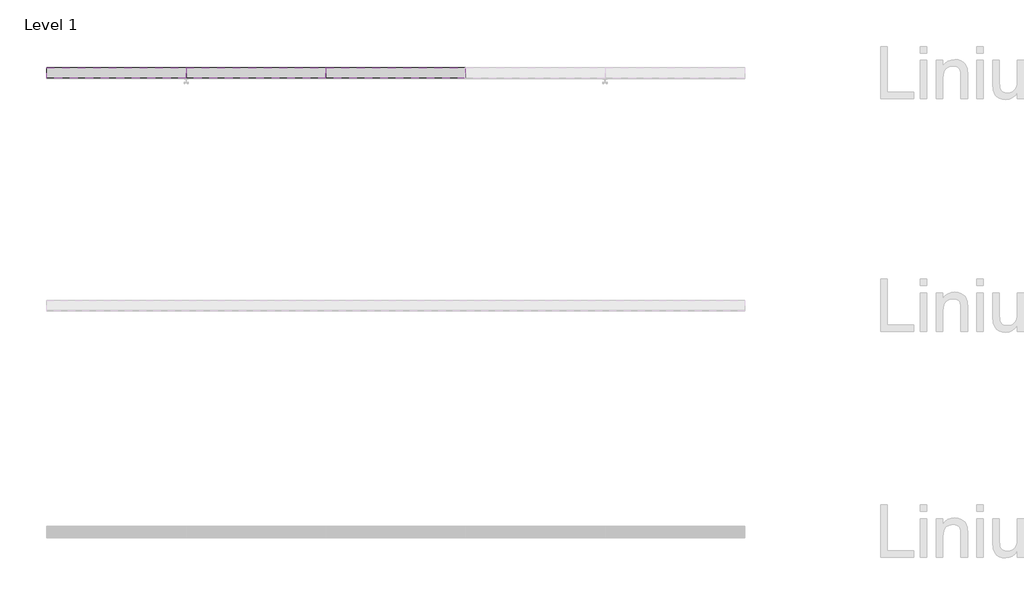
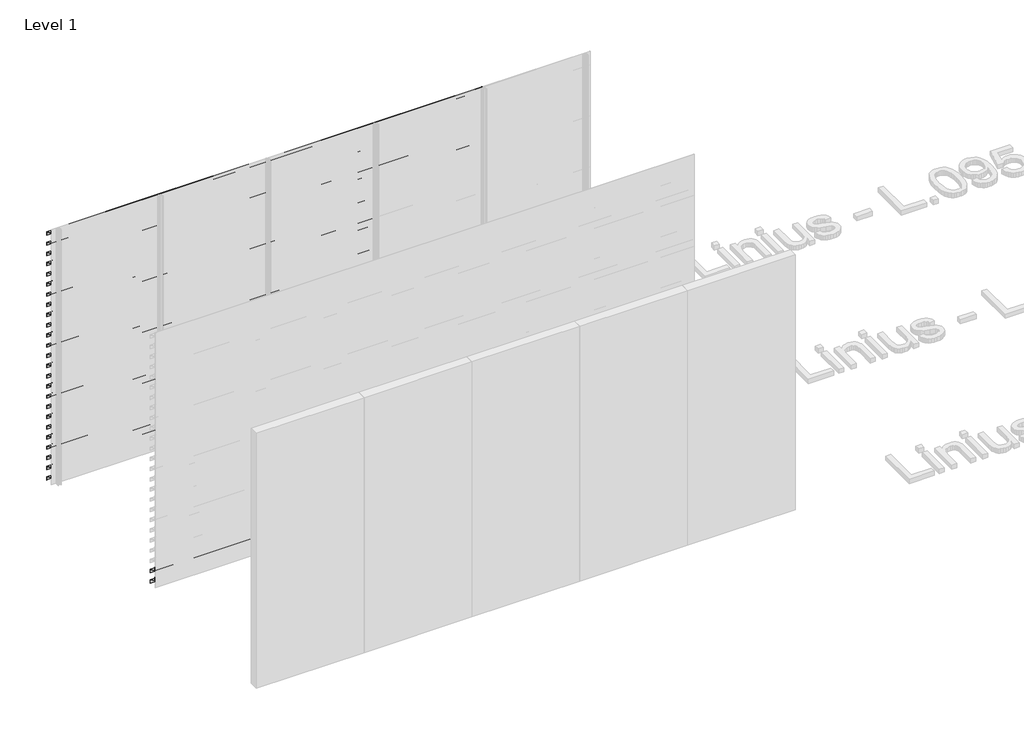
# One storey, part 14 of 46: 85 proxies.
"""IFC4 building model written with IfcOpenShell, lengths in millimetres."""

from ifc_helpers import new_model, si_unit, frame, origin, place, context, project, spatial, polyline, outline, extrude, element, save

model = new_model("IFC4")

# Units and contexts
model_context = context("Model", 3, world=origin())
ifc_project = project(units=[si_unit("LENGTHUNIT", "METRE", prefix="MILLI")], contexts=[model_context])

# Site, building, storey
site = spatial("IfcSite", under=ifc_project)
building = spatial("IfcBuilding", under=site)
storey = spatial("IfcBuildingStorey", under=building, Name="Level 1", Elevation=0.0)

# Proxies
placement = place(None, origin())
element("IfcBuildingElementProxy", 1, Name="Wall Sweeps", at=placement, inside=storey, context=model_context, shape_type="SweptSolid", body=[
    extrude(outline(polyline([(21573.0540136, 2920.0), (21573.0540136, 2880.0), (21571.0540136, 2881.349017), (21571.0540136, 2918.7258595), (21483.0540136, 2959.7609334), (21483.0540136, 3000.0), (21485.0540136, 3000.0), (21485.0540136, 2961.0350739), (21573.0540136, 2920.0)])), frame((466.6208097, 0.0, 0.0), z_axis=(1.0, 0.0, 0.0), x_axis=(0.0, 1.0, 0.0)), (0.0, 0.0, 1.0), 1200.0000002),
])
element("IfcBuildingElementProxy", 2, Name="Wall Sweeps", at=placement, inside=storey, context=model_context, shape_type="SweptSolid", body=[
    extrude(outline(polyline([(21573.0540136, 2800.0), (21573.0540136, 2760.0), (21571.0540136, 2761.349017), (21571.0540136, 2798.7258595), (21483.0540136, 2839.7609334), (21483.0540136, 2880.0), (21485.0540136, 2880.0), (21485.0540136, 2841.0350739), (21573.0540136, 2800.0)])), frame((466.6208097, 0.0, 0.0), z_axis=(1.0, 0.0, 0.0), x_axis=(0.0, 1.0, 0.0)), (0.0, 0.0, 1.0), 1200.0000002),
])
element("IfcBuildingElementProxy", 3, Name="Wall Sweeps", at=placement, inside=storey, context=model_context, shape_type="SweptSolid", body=[
    extrude(outline(polyline([(21573.0540136, 2680.0), (21573.0540136, 2640.0), (21571.0540136, 2641.349017), (21571.0540136, 2678.7258595), (21483.0540136, 2719.7609334), (21483.0540136, 2760.0), (21485.0540136, 2760.0), (21485.0540136, 2721.0350739), (21573.0540136, 2680.0)])), frame((466.6208097, 0.0, 0.0), z_axis=(1.0, 0.0, 0.0), x_axis=(0.0, 1.0, 0.0)), (0.0, 0.0, 1.0), 1200.0000002),
])
element("IfcBuildingElementProxy", 4, Name="Wall Sweeps", at=placement, inside=storey, context=model_context, shape_type="SweptSolid", body=[
    extrude(outline(polyline([(21573.0540136, 2560.0), (21573.0540136, 2520.0), (21571.0540136, 2521.349017), (21571.0540136, 2558.7258595), (21483.0540136, 2599.7609334), (21483.0540136, 2640.0), (21485.0540136, 2640.0), (21485.0540136, 2601.0350739), (21573.0540136, 2560.0)])), frame((466.6208097, 0.0, 0.0), z_axis=(1.0, 0.0, 0.0), x_axis=(0.0, 1.0, 0.0)), (0.0, 0.0, 1.0), 1200.0000002),
])
element("IfcBuildingElementProxy", 5, Name="Wall Sweeps", at=placement, inside=storey, context=model_context, shape_type="SweptSolid", body=[
    extrude(outline(polyline([(21573.0540136, 2440.0), (21573.0540136, 2400.0), (21571.0540136, 2401.349017), (21571.0540136, 2438.7258595), (21483.0540136, 2479.7609334), (21483.0540136, 2520.0), (21485.0540136, 2520.0), (21485.0540136, 2481.0350739), (21573.0540136, 2440.0)])), frame((466.6208097, 0.0, 0.0), z_axis=(1.0, 0.0, 0.0), x_axis=(0.0, 1.0, 0.0)), (0.0, 0.0, 1.0), 1200.0000002),
])
element("IfcBuildingElementProxy", 6, Name="Wall Sweeps", at=placement, inside=storey, context=model_context, shape_type="SweptSolid", body=[
    extrude(outline(polyline([(21573.0540136, 2320.0), (21573.0540136, 2280.0), (21571.0540136, 2281.349017), (21571.0540136, 2318.7258595), (21483.0540136, 2359.7609334), (21483.0540136, 2400.0), (21485.0540136, 2400.0), (21485.0540136, 2361.0350739), (21573.0540136, 2320.0)])), frame((466.6208097, 0.0, 0.0), z_axis=(1.0, 0.0, 0.0), x_axis=(0.0, 1.0, 0.0)), (0.0, 0.0, 1.0), 1200.0000002),
])
element("IfcBuildingElementProxy", 7, Name="Wall Sweeps", at=placement, inside=storey, context=model_context, shape_type="SweptSolid", body=[
    extrude(outline(polyline([(21573.0540136, 2200.0), (21573.0540136, 2160.0), (21571.0540136, 2161.349017), (21571.0540136, 2198.7258595), (21483.0540136, 2239.7609334), (21483.0540136, 2280.0), (21485.0540136, 2280.0), (21485.0540136, 2241.0350739), (21573.0540136, 2200.0)])), frame((466.6208097, 0.0, 0.0), z_axis=(1.0, 0.0, 0.0), x_axis=(0.0, 1.0, 0.0)), (0.0, 0.0, 1.0), 1200.0000002),
])
element("IfcBuildingElementProxy", 8, Name="Wall Sweeps", at=placement, inside=storey, context=model_context, shape_type="SweptSolid", body=[
    extrude(outline(polyline([(21573.0540136, 2080.0), (21573.0540136, 2040.0), (21571.0540136, 2041.349017), (21571.0540136, 2078.7258595), (21483.0540136, 2119.7609334), (21483.0540136, 2160.0), (21485.0540136, 2160.0), (21485.0540136, 2121.0350739), (21573.0540136, 2080.0)])), frame((466.6208097, 0.0, 0.0), z_axis=(1.0, 0.0, 0.0), x_axis=(0.0, 1.0, 0.0)), (0.0, 0.0, 1.0), 1200.0000002),
])
element("IfcBuildingElementProxy", 9, Name="Wall Sweeps", at=placement, inside=storey, context=model_context, shape_type="SweptSolid", body=[
    extrude(outline(polyline([(21573.0540136, 1960.0), (21573.0540136, 1920.0), (21571.0540136, 1921.349017), (21571.0540136, 1958.7258595), (21483.0540136, 1999.7609334), (21483.0540136, 2040.0), (21485.0540136, 2040.0), (21485.0540136, 2001.0350739), (21573.0540136, 1960.0)])), frame((466.6208097, 0.0, 0.0), z_axis=(1.0, 0.0, 0.0), x_axis=(0.0, 1.0, 0.0)), (0.0, 0.0, 1.0), 1200.0000002),
])
element("IfcBuildingElementProxy", 10, Name="Wall Sweeps", at=placement, inside=storey, context=model_context, shape_type="SweptSolid", body=[
    extrude(outline(polyline([(21573.0540136, 1840.0), (21573.0540136, 1800.0), (21571.0540136, 1801.349017), (21571.0540136, 1838.7258595), (21483.0540136, 1879.7609334), (21483.0540136, 1920.0), (21485.0540136, 1920.0), (21485.0540136, 1881.0350739), (21573.0540136, 1840.0)])), frame((466.6208097, 0.0, 0.0), z_axis=(1.0, 0.0, 0.0), x_axis=(0.0, 1.0, 0.0)), (0.0, 0.0, 1.0), 1200.0000002),
])
element("IfcBuildingElementProxy", 11, Name="Wall Sweeps", at=placement, inside=storey, context=model_context, shape_type="SweptSolid", body=[
    extrude(outline(polyline([(21573.0540136, 1720.0), (21573.0540136, 1680.0), (21571.0540136, 1681.349017), (21571.0540136, 1718.7258595), (21483.0540136, 1759.7609334), (21483.0540136, 1800.0), (21485.0540136, 1800.0), (21485.0540136, 1761.0350739), (21573.0540136, 1720.0)])), frame((466.6208097, 0.0, 0.0), z_axis=(1.0, 0.0, 0.0), x_axis=(0.0, 1.0, 0.0)), (0.0, 0.0, 1.0), 1200.0000002),
])
element("IfcBuildingElementProxy", 12, Name="Wall Sweeps", at=placement, inside=storey, context=model_context, shape_type="SweptSolid", body=[
    extrude(outline(polyline([(21573.0540136, 1600.0), (21573.0540136, 1560.0), (21571.0540136, 1561.349017), (21571.0540136, 1598.7258595), (21483.0540136, 1639.7609334), (21483.0540136, 1680.0), (21485.0540136, 1680.0), (21485.0540136, 1641.0350739), (21573.0540136, 1600.0)])), frame((466.6208097, 0.0, 0.0), z_axis=(1.0, 0.0, 0.0), x_axis=(0.0, 1.0, 0.0)), (0.0, 0.0, 1.0), 1200.0000002),
])
element("IfcBuildingElementProxy", 13, Name="Wall Sweeps", at=placement, inside=storey, context=model_context, shape_type="SweptSolid", body=[
    extrude(outline(polyline([(21573.0540136, 1480.0), (21573.0540136, 1440.0), (21571.0540136, 1441.349017), (21571.0540136, 1478.7258595), (21483.0540136, 1519.7609334), (21483.0540136, 1560.0), (21485.0540136, 1560.0), (21485.0540136, 1521.0350739), (21573.0540136, 1480.0)])), frame((466.6208097, 0.0, 0.0), z_axis=(1.0, 0.0, 0.0), x_axis=(0.0, 1.0, 0.0)), (0.0, 0.0, 1.0), 1200.0000002),
])
element("IfcBuildingElementProxy", 14, Name="Wall Sweeps", at=placement, inside=storey, context=model_context, shape_type="SweptSolid", body=[
    extrude(outline(polyline([(21573.0540136, 1360.0), (21573.0540136, 1320.0), (21571.0540136, 1321.349017), (21571.0540136, 1358.7258595), (21483.0540136, 1399.7609334), (21483.0540136, 1440.0), (21485.0540136, 1440.0), (21485.0540136, 1401.0350739), (21573.0540136, 1360.0)])), frame((466.6208097, 0.0, 0.0), z_axis=(1.0, 0.0, 0.0), x_axis=(0.0, 1.0, 0.0)), (0.0, 0.0, 1.0), 1200.0000002),
])
element("IfcBuildingElementProxy", 15, Name="Wall Sweeps", at=placement, inside=storey, context=model_context, shape_type="SweptSolid", body=[
    extrude(outline(polyline([(21573.0540136, 1240.0), (21573.0540136, 1200.0), (21571.0540136, 1201.349017), (21571.0540136, 1238.7258595), (21483.0540136, 1279.7609334), (21483.0540136, 1320.0), (21485.0540136, 1320.0), (21485.0540136, 1281.0350739), (21573.0540136, 1240.0)])), frame((466.6208097, 0.0, 0.0), z_axis=(1.0, 0.0, 0.0), x_axis=(0.0, 1.0, 0.0)), (0.0, 0.0, 1.0), 1200.0000002),
])
element("IfcBuildingElementProxy", 16, Name="Wall Sweeps", at=placement, inside=storey, context=model_context, shape_type="SweptSolid", body=[
    extrude(outline(polyline([(21573.0540136, 1120.0), (21573.0540136, 1080.0), (21571.0540136, 1081.349017), (21571.0540136, 1118.7258595), (21483.0540136, 1159.7609334), (21483.0540136, 1200.0), (21485.0540136, 1200.0), (21485.0540136, 1161.0350739), (21573.0540136, 1120.0)])), frame((466.6208097, 0.0, 0.0), z_axis=(1.0, 0.0, 0.0), x_axis=(0.0, 1.0, 0.0)), (0.0, 0.0, 1.0), 1200.0000002),
])
element("IfcBuildingElementProxy", 17, Name="Wall Sweeps", at=placement, inside=storey, context=model_context, shape_type="SweptSolid", body=[
    extrude(outline(polyline([(21573.0540136, 1000.0), (21573.0540136, 960.0), (21571.0540136, 961.349017), (21571.0540136, 998.7258595), (21483.0540136, 1039.7609334), (21483.0540136, 1080.0), (21485.0540136, 1080.0), (21485.0540136, 1041.0350739), (21573.0540136, 1000.0)])), frame((466.6208097, 0.0, 0.0), z_axis=(1.0, 0.0, 0.0), x_axis=(0.0, 1.0, 0.0)), (0.0, 0.0, 1.0), 1200.0000002),
])
element("IfcBuildingElementProxy", 18, Name="Wall Sweeps", at=placement, inside=storey, context=model_context, shape_type="SweptSolid", body=[
    extrude(outline(polyline([(21573.0540136, 880.0), (21573.0540136, 840.0), (21571.0540136, 841.349017), (21571.0540136, 878.7258595), (21483.0540136, 919.7609334), (21483.0540136, 960.0), (21485.0540136, 960.0), (21485.0540136, 921.0350739), (21573.0540136, 880.0)])), frame((466.6208097, 0.0, 0.0), z_axis=(1.0, 0.0, 0.0), x_axis=(0.0, 1.0, 0.0)), (0.0, 0.0, 1.0), 1200.0000002),
])
element("IfcBuildingElementProxy", 19, Name="Wall Sweeps", at=placement, inside=storey, context=model_context, shape_type="SweptSolid", body=[
    extrude(outline(polyline([(21573.0540136, 760.0), (21573.0540136, 720.0), (21571.0540136, 721.349017), (21571.0540136, 758.7258595), (21483.0540136, 799.7609334), (21483.0540136, 840.0), (21485.0540136, 840.0), (21485.0540136, 801.0350739), (21573.0540136, 760.0)])), frame((466.6208097, 0.0, 0.0), z_axis=(1.0, 0.0, 0.0), x_axis=(0.0, 1.0, 0.0)), (0.0, 0.0, 1.0), 1200.0000002),
])
element("IfcBuildingElementProxy", 20, Name="Wall Sweeps", at=placement, inside=storey, context=model_context, shape_type="SweptSolid", body=[
    extrude(outline(polyline([(21573.0540136, 640.0), (21573.0540136, 600.0), (21571.0540136, 601.349017), (21571.0540136, 638.7258595), (21483.0540136, 679.7609334), (21483.0540136, 720.0), (21485.0540136, 720.0), (21485.0540136, 681.0350739), (21573.0540136, 640.0)])), frame((466.6208097, 0.0, 0.0), z_axis=(1.0, 0.0, 0.0), x_axis=(0.0, 1.0, 0.0)), (0.0, 0.0, 1.0), 1200.0000002),
])
element("IfcBuildingElementProxy", 21, Name="Wall Sweeps", at=placement, inside=storey, context=model_context, shape_type="SweptSolid", body=[
    extrude(outline(polyline([(21573.0540136, 520.0), (21573.0540136, 480.0), (21571.0540136, 481.349017), (21571.0540136, 518.7258595), (21483.0540136, 559.7609334), (21483.0540136, 600.0), (21485.0540136, 600.0), (21485.0540136, 561.0350739), (21573.0540136, 520.0)])), frame((466.6208097, 0.0, 0.0), z_axis=(1.0, 0.0, 0.0), x_axis=(0.0, 1.0, 0.0)), (0.0, 0.0, 1.0), 1200.0000002),
])
element("IfcBuildingElementProxy", 22, Name="Wall Sweeps", at=placement, inside=storey, context=model_context, shape_type="SweptSolid", body=[
    extrude(outline(polyline([(21573.0540136, 400.0), (21573.0540136, 360.0), (21571.0540136, 361.349017), (21571.0540136, 398.7258595), (21483.0540136, 439.7609334), (21483.0540136, 480.0), (21485.0540136, 480.0), (21485.0540136, 441.0350739), (21573.0540136, 400.0)])), frame((466.6208097, 0.0, 0.0), z_axis=(1.0, 0.0, 0.0), x_axis=(0.0, 1.0, 0.0)), (0.0, 0.0, 1.0), 1200.0000002),
])
element("IfcBuildingElementProxy", 23, Name="Wall Sweeps", at=placement, inside=storey, context=model_context, shape_type="SweptSolid", body=[
    extrude(outline(polyline([(21573.0540136, 280.0), (21573.0540136, 240.0), (21571.0540136, 241.349017), (21571.0540136, 278.7258595), (21483.0540136, 319.7609334), (21483.0540136, 360.0), (21485.0540136, 360.0), (21485.0540136, 321.0350739), (21573.0540136, 280.0)])), frame((466.6208097, 0.0, 0.0), z_axis=(1.0, 0.0, 0.0), x_axis=(0.0, 1.0, 0.0)), (0.0, 0.0, 1.0), 1200.0000002),
])
element("IfcBuildingElementProxy", 24, Name="Wall Sweeps", at=placement, inside=storey, context=model_context, shape_type="SweptSolid", body=[
    extrude(outline(polyline([(21573.0540136, 160.0), (21573.0540136, 120.0), (21571.0540136, 121.349017), (21571.0540136, 158.7258595), (21483.0540136, 199.7609334), (21483.0540136, 240.0), (21485.0540136, 240.0), (21485.0540136, 201.0350739), (21573.0540136, 160.0)])), frame((466.6208097, 0.0, 0.0), z_axis=(1.0, 0.0, 0.0), x_axis=(0.0, 1.0, 0.0)), (0.0, 0.0, 1.0), 1200.0000002),
])
element("IfcBuildingElementProxy", 25, Name="Wall Sweeps", at=placement, inside=storey, context=model_context, shape_type="SweptSolid", body=[
    extrude(outline(polyline([(21573.0540136, 40.0), (21573.0540136, 0.0), (21571.0540136, 1.349017), (21571.0540136, 38.7258595), (21483.0540136, 79.7609334), (21483.0540136, 120.0), (21485.0540136, 120.0), (21485.0540136, 81.0350739), (21573.0540136, 40.0)])), frame((466.6208097, 0.0, 0.0), z_axis=(1.0, 0.0, 0.0), x_axis=(0.0, 1.0, 0.0)), (0.0, 0.0, 1.0), 1200.0000002),
])
element("IfcBuildingElementProxy", 26, Name="Wall Sweeps", at=placement, inside=storey, context=model_context, shape_type="SweptSolid", body=[
    extrude(outline(polyline([(21573.0540136, 2920.0), (21573.0540136, 2880.0), (21571.0540136, 2881.349017), (21571.0540136, 2918.7258595), (21483.0540136, 2959.7609334), (21483.0540136, 3000.0), (21485.0540136, 3000.0), (21485.0540136, 2961.0350739), (21573.0540136, 2920.0)])), frame((1666.6208099, 0.0, 0.0), z_axis=(1.0, 0.0, 0.0), x_axis=(0.0, 1.0, 0.0)), (0.0, 0.0, 1.0), 1199.9999999),
])
element("IfcBuildingElementProxy", 27, Name="Wall Sweeps", at=placement, inside=storey, context=model_context, shape_type="SweptSolid", body=[
    extrude(outline(polyline([(21573.0540136, 2800.0), (21573.0540136, 2760.0), (21571.0540136, 2761.349017), (21571.0540136, 2798.7258595), (21483.0540136, 2839.7609334), (21483.0540136, 2880.0), (21485.0540136, 2880.0), (21485.0540136, 2841.0350739), (21573.0540136, 2800.0)])), frame((1666.6208099, 0.0, 0.0), z_axis=(1.0, 0.0, 0.0), x_axis=(0.0, 1.0, 0.0)), (0.0, 0.0, 1.0), 1199.9999999),
])
element("IfcBuildingElementProxy", 28, Name="Wall Sweeps", at=placement, inside=storey, context=model_context, shape_type="SweptSolid", body=[
    extrude(outline(polyline([(21573.0540136, 2680.0), (21573.0540136, 2640.0), (21571.0540136, 2641.349017), (21571.0540136, 2678.7258595), (21483.0540136, 2719.7609334), (21483.0540136, 2760.0), (21485.0540136, 2760.0), (21485.0540136, 2721.0350739), (21573.0540136, 2680.0)])), frame((1666.6208099, 0.0, 0.0), z_axis=(1.0, 0.0, 0.0), x_axis=(0.0, 1.0, 0.0)), (0.0, 0.0, 1.0), 1199.9999999),
])
element("IfcBuildingElementProxy", 29, Name="Wall Sweeps", at=placement, inside=storey, context=model_context, shape_type="SweptSolid", body=[
    extrude(outline(polyline([(21573.0540136, 2560.0), (21573.0540136, 2520.0), (21571.0540136, 2521.349017), (21571.0540136, 2558.7258595), (21483.0540136, 2599.7609334), (21483.0540136, 2640.0), (21485.0540136, 2640.0), (21485.0540136, 2601.0350739), (21573.0540136, 2560.0)])), frame((1666.6208099, 0.0, 0.0), z_axis=(1.0, 0.0, 0.0), x_axis=(0.0, 1.0, 0.0)), (0.0, 0.0, 1.0), 1199.9999999),
])
element("IfcBuildingElementProxy", 30, Name="Wall Sweeps", at=placement, inside=storey, context=model_context, shape_type="SweptSolid", body=[
    extrude(outline(polyline([(21573.0540136, 2440.0), (21573.0540136, 2400.0), (21571.0540136, 2401.349017), (21571.0540136, 2438.7258595), (21483.0540136, 2479.7609334), (21483.0540136, 2520.0), (21485.0540136, 2520.0), (21485.0540136, 2481.0350739), (21573.0540136, 2440.0)])), frame((1666.6208099, 0.0, 0.0), z_axis=(1.0, 0.0, 0.0), x_axis=(0.0, 1.0, 0.0)), (0.0, 0.0, 1.0), 1199.9999999),
])
element("IfcBuildingElementProxy", 31, Name="Wall Sweeps", at=placement, inside=storey, context=model_context, shape_type="SweptSolid", body=[
    extrude(outline(polyline([(21573.0540136, 2320.0), (21573.0540136, 2280.0), (21571.0540136, 2281.349017), (21571.0540136, 2318.7258595), (21483.0540136, 2359.7609334), (21483.0540136, 2400.0), (21485.0540136, 2400.0), (21485.0540136, 2361.0350739), (21573.0540136, 2320.0)])), frame((1666.6208099, 0.0, 0.0), z_axis=(1.0, 0.0, 0.0), x_axis=(0.0, 1.0, 0.0)), (0.0, 0.0, 1.0), 1199.9999999),
])
element("IfcBuildingElementProxy", 32, Name="Wall Sweeps", at=placement, inside=storey, context=model_context, shape_type="SweptSolid", body=[
    extrude(outline(polyline([(21573.0540136, 2200.0), (21573.0540136, 2160.0), (21571.0540136, 2161.349017), (21571.0540136, 2198.7258595), (21483.0540136, 2239.7609334), (21483.0540136, 2280.0), (21485.0540136, 2280.0), (21485.0540136, 2241.0350739), (21573.0540136, 2200.0)])), frame((1666.6208099, 0.0, 0.0), z_axis=(1.0, 0.0, 0.0), x_axis=(0.0, 1.0, 0.0)), (0.0, 0.0, 1.0), 1199.9999999),
])
element("IfcBuildingElementProxy", 33, Name="Wall Sweeps", at=placement, inside=storey, context=model_context, shape_type="SweptSolid", body=[
    extrude(outline(polyline([(21573.0540136, 2080.0), (21573.0540136, 2040.0), (21571.0540136, 2041.349017), (21571.0540136, 2078.7258595), (21483.0540136, 2119.7609334), (21483.0540136, 2160.0), (21485.0540136, 2160.0), (21485.0540136, 2121.0350739), (21573.0540136, 2080.0)])), frame((1666.6208099, 0.0, 0.0), z_axis=(1.0, 0.0, 0.0), x_axis=(0.0, 1.0, 0.0)), (0.0, 0.0, 1.0), 1199.9999999),
])
element("IfcBuildingElementProxy", 34, Name="Wall Sweeps", at=placement, inside=storey, context=model_context, shape_type="SweptSolid", body=[
    extrude(outline(polyline([(21573.0540136, 1960.0), (21573.0540136, 1920.0), (21571.0540136, 1921.349017), (21571.0540136, 1958.7258595), (21483.0540136, 1999.7609334), (21483.0540136, 2040.0), (21485.0540136, 2040.0), (21485.0540136, 2001.0350739), (21573.0540136, 1960.0)])), frame((1666.6208099, 0.0, 0.0), z_axis=(1.0, 0.0, 0.0), x_axis=(0.0, 1.0, 0.0)), (0.0, 0.0, 1.0), 1199.9999999),
])
element("IfcBuildingElementProxy", 35, Name="Wall Sweeps", at=placement, inside=storey, context=model_context, shape_type="SweptSolid", body=[
    extrude(outline(polyline([(21573.0540136, 1840.0), (21573.0540136, 1800.0), (21571.0540136, 1801.349017), (21571.0540136, 1838.7258595), (21483.0540136, 1879.7609334), (21483.0540136, 1920.0), (21485.0540136, 1920.0), (21485.0540136, 1881.0350739), (21573.0540136, 1840.0)])), frame((1666.6208099, 0.0, 0.0), z_axis=(1.0, 0.0, 0.0), x_axis=(0.0, 1.0, 0.0)), (0.0, 0.0, 1.0), 1199.9999999),
])
element("IfcBuildingElementProxy", 36, Name="Wall Sweeps", at=placement, inside=storey, context=model_context, shape_type="SweptSolid", body=[
    extrude(outline(polyline([(21573.0540136, 1720.0), (21573.0540136, 1680.0), (21571.0540136, 1681.349017), (21571.0540136, 1718.7258595), (21483.0540136, 1759.7609334), (21483.0540136, 1800.0), (21485.0540136, 1800.0), (21485.0540136, 1761.0350739), (21573.0540136, 1720.0)])), frame((1666.6208099, 0.0, 0.0), z_axis=(1.0, 0.0, 0.0), x_axis=(0.0, 1.0, 0.0)), (0.0, 0.0, 1.0), 1199.9999999),
])
element("IfcBuildingElementProxy", 37, Name="Wall Sweeps", at=placement, inside=storey, context=model_context, shape_type="SweptSolid", body=[
    extrude(outline(polyline([(21573.0540136, 1600.0), (21573.0540136, 1560.0), (21571.0540136, 1561.349017), (21571.0540136, 1598.7258595), (21483.0540136, 1639.7609334), (21483.0540136, 1680.0), (21485.0540136, 1680.0), (21485.0540136, 1641.0350739), (21573.0540136, 1600.0)])), frame((1666.6208099, 0.0, 0.0), z_axis=(1.0, 0.0, 0.0), x_axis=(0.0, 1.0, 0.0)), (0.0, 0.0, 1.0), 1199.9999999),
])
element("IfcBuildingElementProxy", 38, Name="Wall Sweeps", at=placement, inside=storey, context=model_context, shape_type="SweptSolid", body=[
    extrude(outline(polyline([(21573.0540136, 1480.0), (21573.0540136, 1440.0), (21571.0540136, 1441.349017), (21571.0540136, 1478.7258595), (21483.0540136, 1519.7609334), (21483.0540136, 1560.0), (21485.0540136, 1560.0), (21485.0540136, 1521.0350739), (21573.0540136, 1480.0)])), frame((1666.6208099, 0.0, 0.0), z_axis=(1.0, 0.0, 0.0), x_axis=(0.0, 1.0, 0.0)), (0.0, 0.0, 1.0), 1199.9999999),
])
element("IfcBuildingElementProxy", 39, Name="Wall Sweeps", at=placement, inside=storey, context=model_context, shape_type="SweptSolid", body=[
    extrude(outline(polyline([(21573.0540136, 1360.0), (21573.0540136, 1320.0), (21571.0540136, 1321.349017), (21571.0540136, 1358.7258595), (21483.0540136, 1399.7609334), (21483.0540136, 1440.0), (21485.0540136, 1440.0), (21485.0540136, 1401.0350739), (21573.0540136, 1360.0)])), frame((1666.6208099, 0.0, 0.0), z_axis=(1.0, 0.0, 0.0), x_axis=(0.0, 1.0, 0.0)), (0.0, 0.0, 1.0), 1199.9999999),
])
element("IfcBuildingElementProxy", 40, Name="Wall Sweeps", at=placement, inside=storey, context=model_context, shape_type="SweptSolid", body=[
    extrude(outline(polyline([(21573.0540136, 1240.0), (21573.0540136, 1200.0), (21571.0540136, 1201.349017), (21571.0540136, 1238.7258595), (21483.0540136, 1279.7609334), (21483.0540136, 1320.0), (21485.0540136, 1320.0), (21485.0540136, 1281.0350739), (21573.0540136, 1240.0)])), frame((1666.6208099, 0.0, 0.0), z_axis=(1.0, 0.0, 0.0), x_axis=(0.0, 1.0, 0.0)), (0.0, 0.0, 1.0), 1199.9999999),
])
element("IfcBuildingElementProxy", 41, Name="Wall Sweeps", at=placement, inside=storey, context=model_context, shape_type="SweptSolid", body=[
    extrude(outline(polyline([(21573.0540136, 1120.0), (21573.0540136, 1080.0), (21571.0540136, 1081.349017), (21571.0540136, 1118.7258595), (21483.0540136, 1159.7609334), (21483.0540136, 1200.0), (21485.0540136, 1200.0), (21485.0540136, 1161.0350739), (21573.0540136, 1120.0)])), frame((1666.6208099, 0.0, 0.0), z_axis=(1.0, 0.0, 0.0), x_axis=(0.0, 1.0, 0.0)), (0.0, 0.0, 1.0), 1199.9999999),
])
element("IfcBuildingElementProxy", 42, Name="Wall Sweeps", at=placement, inside=storey, context=model_context, shape_type="SweptSolid", body=[
    extrude(outline(polyline([(21573.0540136, 1000.0), (21573.0540136, 960.0), (21571.0540136, 961.349017), (21571.0540136, 998.7258595), (21483.0540136, 1039.7609334), (21483.0540136, 1080.0), (21485.0540136, 1080.0), (21485.0540136, 1041.0350739), (21573.0540136, 1000.0)])), frame((1666.6208099, 0.0, 0.0), z_axis=(1.0, 0.0, 0.0), x_axis=(0.0, 1.0, 0.0)), (0.0, 0.0, 1.0), 1199.9999999),
])
element("IfcBuildingElementProxy", 43, Name="Wall Sweeps", at=placement, inside=storey, context=model_context, shape_type="SweptSolid", body=[
    extrude(outline(polyline([(21573.0540136, 880.0), (21573.0540136, 840.0), (21571.0540136, 841.349017), (21571.0540136, 878.7258595), (21483.0540136, 919.7609334), (21483.0540136, 960.0), (21485.0540136, 960.0), (21485.0540136, 921.0350739), (21573.0540136, 880.0)])), frame((1666.6208099, 0.0, 0.0), z_axis=(1.0, 0.0, 0.0), x_axis=(0.0, 1.0, 0.0)), (0.0, 0.0, 1.0), 1199.9999999),
])
element("IfcBuildingElementProxy", 44, Name="Wall Sweeps", at=placement, inside=storey, context=model_context, shape_type="SweptSolid", body=[
    extrude(outline(polyline([(21573.0540136, 760.0), (21573.0540136, 720.0), (21571.0540136, 721.349017), (21571.0540136, 758.7258595), (21483.0540136, 799.7609334), (21483.0540136, 840.0), (21485.0540136, 840.0), (21485.0540136, 801.0350739), (21573.0540136, 760.0)])), frame((1666.6208099, 0.0, 0.0), z_axis=(1.0, 0.0, 0.0), x_axis=(0.0, 1.0, 0.0)), (0.0, 0.0, 1.0), 1199.9999999),
])
element("IfcBuildingElementProxy", 45, Name="Wall Sweeps", at=placement, inside=storey, context=model_context, shape_type="SweptSolid", body=[
    extrude(outline(polyline([(21573.0540136, 640.0), (21573.0540136, 600.0), (21571.0540136, 601.349017), (21571.0540136, 638.7258595), (21483.0540136, 679.7609334), (21483.0540136, 720.0), (21485.0540136, 720.0), (21485.0540136, 681.0350739), (21573.0540136, 640.0)])), frame((1666.6208099, 0.0, 0.0), z_axis=(1.0, 0.0, 0.0), x_axis=(0.0, 1.0, 0.0)), (0.0, 0.0, 1.0), 1199.9999999),
])
element("IfcBuildingElementProxy", 46, Name="Wall Sweeps", at=placement, inside=storey, context=model_context, shape_type="SweptSolid", body=[
    extrude(outline(polyline([(21573.0540136, 520.0), (21573.0540136, 480.0), (21571.0540136, 481.349017), (21571.0540136, 518.7258595), (21483.0540136, 559.7609334), (21483.0540136, 600.0), (21485.0540136, 600.0), (21485.0540136, 561.0350739), (21573.0540136, 520.0)])), frame((1666.6208099, 0.0, 0.0), z_axis=(1.0, 0.0, 0.0), x_axis=(0.0, 1.0, 0.0)), (0.0, 0.0, 1.0), 1199.9999999),
])
element("IfcBuildingElementProxy", 47, Name="Wall Sweeps", at=placement, inside=storey, context=model_context, shape_type="SweptSolid", body=[
    extrude(outline(polyline([(21573.0540136, 400.0), (21573.0540136, 360.0), (21571.0540136, 361.349017), (21571.0540136, 398.7258595), (21483.0540136, 439.7609334), (21483.0540136, 480.0), (21485.0540136, 480.0), (21485.0540136, 441.0350739), (21573.0540136, 400.0)])), frame((1666.6208099, 0.0, 0.0), z_axis=(1.0, 0.0, 0.0), x_axis=(0.0, 1.0, 0.0)), (0.0, 0.0, 1.0), 1199.9999999),
])
element("IfcBuildingElementProxy", 48, Name="Wall Sweeps", at=placement, inside=storey, context=model_context, shape_type="SweptSolid", body=[
    extrude(outline(polyline([(21573.0540136, 280.0), (21573.0540136, 240.0), (21571.0540136, 241.349017), (21571.0540136, 278.7258595), (21483.0540136, 319.7609334), (21483.0540136, 360.0), (21485.0540136, 360.0), (21485.0540136, 321.0350739), (21573.0540136, 280.0)])), frame((1666.6208099, 0.0, 0.0), z_axis=(1.0, 0.0, 0.0), x_axis=(0.0, 1.0, 0.0)), (0.0, 0.0, 1.0), 1199.9999999),
])
element("IfcBuildingElementProxy", 49, Name="Wall Sweeps", at=placement, inside=storey, context=model_context, shape_type="SweptSolid", body=[
    extrude(outline(polyline([(21573.0540136, 160.0), (21573.0540136, 120.0), (21571.0540136, 121.349017), (21571.0540136, 158.7258595), (21483.0540136, 199.7609334), (21483.0540136, 240.0), (21485.0540136, 240.0), (21485.0540136, 201.0350739), (21573.0540136, 160.0)])), frame((1666.6208099, 0.0, 0.0), z_axis=(1.0, 0.0, 0.0), x_axis=(0.0, 1.0, 0.0)), (0.0, 0.0, 1.0), 1199.9999999),
])
element("IfcBuildingElementProxy", 50, Name="Wall Sweeps", at=placement, inside=storey, context=model_context, shape_type="SweptSolid", body=[
    extrude(outline(polyline([(21573.0540136, 40.0), (21573.0540136, 0.0), (21571.0540136, 1.349017), (21571.0540136, 38.7258595), (21483.0540136, 79.7609334), (21483.0540136, 120.0), (21485.0540136, 120.0), (21485.0540136, 81.0350739), (21573.0540136, 40.0)])), frame((1666.6208099, 0.0, 0.0), z_axis=(1.0, 0.0, 0.0), x_axis=(0.0, 1.0, 0.0)), (0.0, 0.0, 1.0), 1199.9999999),
])
element("IfcBuildingElementProxy", 51, Name="Wall Sweeps", at=placement, inside=storey, context=model_context, shape_type="SweptSolid", body=[
    extrude(outline(polyline([(19573.0540136, 160.0), (19573.0540136, 120.0), (19571.0540136, 121.349017), (19571.0540136, 158.7258595), (19483.0540136, 199.7609334), (19483.0540136, 240.0), (19485.0540136, 240.0), (19485.0540136, 201.0350739), (19573.0540136, 160.0)])), frame((466.6208097, 0.0, 0.0), z_axis=(1.0, 0.0, 0.0), x_axis=(0.0, 1.0, 0.0)), (0.0, 0.0, 1.0), 6000.0),
])
element("IfcBuildingElementProxy", 52, Name="Wall Sweeps", at=placement, inside=storey, context=model_context, shape_type="SweptSolid", body=[
    extrude(outline(polyline([(19573.0540136, 40.0), (19573.0540136, 0.0), (19571.0540136, 1.349017), (19571.0540136, 38.7258595), (19483.0540136, 79.7609334), (19483.0540136, 120.0), (19485.0540136, 120.0), (19485.0540136, 81.0350739), (19573.0540136, 40.0)])), frame((466.6208097, 0.0, 0.0), z_axis=(1.0, 0.0, 0.0), x_axis=(0.0, 1.0, 0.0)), (0.0, 0.0, 1.0), 6000.0),
])
element("IfcBuildingElementProxy", 53, Name="Wall Sweeps", at=placement, inside=storey, context=model_context, shape_type="SweptSolid", body=[
    extrude(outline(polyline([(21573.0540136, 2920.0), (21573.0540136, 2880.0), (21571.0540136, 2881.349017), (21571.0540136, 2918.7258595), (21483.0540136, 2959.7609334), (21483.0540136, 3000.0), (21485.0540136, 3000.0), (21485.0540136, 2961.0350739), (21573.0540136, 2920.0)])), frame((2866.6208097, 0.0, 0.0), z_axis=(1.0, 0.0, 0.0), x_axis=(0.0, 1.0, 0.0)), (0.0, 0.0, 1.0), 1199.9999999),
])
element("IfcBuildingElementProxy", 54, Name="Wall Sweeps", at=placement, inside=storey, context=model_context, shape_type="SweptSolid", body=[
    extrude(outline(polyline([(21573.0540136, 2800.0), (21573.0540136, 2760.0), (21571.0540136, 2761.349017), (21571.0540136, 2798.7258595), (21483.0540136, 2839.7609334), (21483.0540136, 2880.0), (21485.0540136, 2880.0), (21485.0540136, 2841.0350739), (21573.0540136, 2800.0)])), frame((2866.6208097, 0.0, 0.0), z_axis=(1.0, 0.0, 0.0), x_axis=(0.0, 1.0, 0.0)), (0.0, 0.0, 1.0), 1199.9999999),
])
element("IfcBuildingElementProxy", 55, Name="Wall Sweeps", at=placement, inside=storey, context=model_context, shape_type="SweptSolid", body=[
    extrude(outline(polyline([(21573.0540136, 2680.0), (21573.0540136, 2640.0), (21571.0540136, 2641.349017), (21571.0540136, 2678.7258595), (21483.0540136, 2719.7609334), (21483.0540136, 2760.0), (21485.0540136, 2760.0), (21485.0540136, 2721.0350739), (21573.0540136, 2680.0)])), frame((2866.6208097, 0.0, 0.0), z_axis=(1.0, 0.0, 0.0), x_axis=(0.0, 1.0, 0.0)), (0.0, 0.0, 1.0), 1199.9999999),
])
element("IfcBuildingElementProxy", 56, Name="Wall Sweeps", at=placement, inside=storey, context=model_context, shape_type="SweptSolid", body=[
    extrude(outline(polyline([(21573.0540136, 2560.0), (21573.0540136, 2520.0), (21571.0540136, 2521.349017), (21571.0540136, 2558.7258595), (21483.0540136, 2599.7609334), (21483.0540136, 2640.0), (21485.0540136, 2640.0), (21485.0540136, 2601.0350739), (21573.0540136, 2560.0)])), frame((2866.6208097, 0.0, 0.0), z_axis=(1.0, 0.0, 0.0), x_axis=(0.0, 1.0, 0.0)), (0.0, 0.0, 1.0), 1199.9999999),
])
element("IfcBuildingElementProxy", 57, Name="Wall Sweeps", at=placement, inside=storey, context=model_context, shape_type="SweptSolid", body=[
    extrude(outline(polyline([(21573.0540136, 2440.0), (21573.0540136, 2400.0), (21571.0540136, 2401.349017), (21571.0540136, 2438.7258595), (21483.0540136, 2479.7609334), (21483.0540136, 2520.0), (21485.0540136, 2520.0), (21485.0540136, 2481.0350739), (21573.0540136, 2440.0)])), frame((2866.6208097, 0.0, 0.0), z_axis=(1.0, 0.0, 0.0), x_axis=(0.0, 1.0, 0.0)), (0.0, 0.0, 1.0), 1199.9999999),
])
element("IfcBuildingElementProxy", 58, Name="Wall Sweeps", at=placement, inside=storey, context=model_context, shape_type="SweptSolid", body=[
    extrude(outline(polyline([(21573.0540136, 2320.0), (21573.0540136, 2280.0), (21571.0540136, 2281.349017), (21571.0540136, 2318.7258595), (21483.0540136, 2359.7609334), (21483.0540136, 2400.0), (21485.0540136, 2400.0), (21485.0540136, 2361.0350739), (21573.0540136, 2320.0)])), frame((2866.6208097, 0.0, 0.0), z_axis=(1.0, 0.0, 0.0), x_axis=(0.0, 1.0, 0.0)), (0.0, 0.0, 1.0), 1199.9999999),
])
element("IfcBuildingElementProxy", 59, Name="Wall Sweeps", at=placement, inside=storey, context=model_context, shape_type="SweptSolid", body=[
    extrude(outline(polyline([(21573.0540136, 2200.0), (21573.0540136, 2160.0), (21571.0540136, 2161.349017), (21571.0540136, 2198.7258595), (21483.0540136, 2239.7609334), (21483.0540136, 2280.0), (21485.0540136, 2280.0), (21485.0540136, 2241.0350739), (21573.0540136, 2200.0)])), frame((2866.6208097, 0.0, 0.0), z_axis=(1.0, 0.0, 0.0), x_axis=(0.0, 1.0, 0.0)), (0.0, 0.0, 1.0), 1199.9999999),
])
element("IfcBuildingElementProxy", 60, Name="Wall Sweeps", at=placement, inside=storey, context=model_context, shape_type="SweptSolid", body=[
    extrude(outline(polyline([(21573.0540136, 2080.0), (21573.0540136, 2040.0), (21571.0540136, 2041.349017), (21571.0540136, 2078.7258595), (21483.0540136, 2119.7609334), (21483.0540136, 2160.0), (21485.0540136, 2160.0), (21485.0540136, 2121.0350739), (21573.0540136, 2080.0)])), frame((2866.6208097, 0.0, 0.0), z_axis=(1.0, 0.0, 0.0), x_axis=(0.0, 1.0, 0.0)), (0.0, 0.0, 1.0), 1199.9999999),
])
element("IfcBuildingElementProxy", 61, Name="Wall Sweeps", at=placement, inside=storey, context=model_context, shape_type="SweptSolid", body=[
    extrude(outline(polyline([(21573.0540136, 1960.0), (21573.0540136, 1920.0), (21571.0540136, 1921.349017), (21571.0540136, 1958.7258595), (21483.0540136, 1999.7609334), (21483.0540136, 2040.0), (21485.0540136, 2040.0), (21485.0540136, 2001.0350739), (21573.0540136, 1960.0)])), frame((2866.6208097, 0.0, 0.0), z_axis=(1.0, 0.0, 0.0), x_axis=(0.0, 1.0, 0.0)), (0.0, 0.0, 1.0), 1199.9999999),
])
element("IfcBuildingElementProxy", 62, Name="Wall Sweeps", at=placement, inside=storey, context=model_context, shape_type="SweptSolid", body=[
    extrude(outline(polyline([(21573.0540136, 1840.0), (21573.0540136, 1800.0), (21571.0540136, 1801.349017), (21571.0540136, 1838.7258595), (21483.0540136, 1879.7609334), (21483.0540136, 1920.0), (21485.0540136, 1920.0), (21485.0540136, 1881.0350739), (21573.0540136, 1840.0)])), frame((2866.6208097, 0.0, 0.0), z_axis=(1.0, 0.0, 0.0), x_axis=(0.0, 1.0, 0.0)), (0.0, 0.0, 1.0), 1199.9999999),
])
element("IfcBuildingElementProxy", 63, Name="Wall Sweeps", at=placement, inside=storey, context=model_context, shape_type="SweptSolid", body=[
    extrude(outline(polyline([(21573.0540136, 1720.0), (21573.0540136, 1680.0), (21571.0540136, 1681.349017), (21571.0540136, 1718.7258595), (21483.0540136, 1759.7609334), (21483.0540136, 1800.0), (21485.0540136, 1800.0), (21485.0540136, 1761.0350739), (21573.0540136, 1720.0)])), frame((2866.6208097, 0.0, 0.0), z_axis=(1.0, 0.0, 0.0), x_axis=(0.0, 1.0, 0.0)), (0.0, 0.0, 1.0), 1199.9999999),
])
element("IfcBuildingElementProxy", 64, Name="Wall Sweeps", at=placement, inside=storey, context=model_context, shape_type="SweptSolid", body=[
    extrude(outline(polyline([(21573.0540136, 1600.0), (21573.0540136, 1560.0), (21571.0540136, 1561.349017), (21571.0540136, 1598.7258595), (21483.0540136, 1639.7609334), (21483.0540136, 1680.0), (21485.0540136, 1680.0), (21485.0540136, 1641.0350739), (21573.0540136, 1600.0)])), frame((2866.6208097, 0.0, 0.0), z_axis=(1.0, 0.0, 0.0), x_axis=(0.0, 1.0, 0.0)), (0.0, 0.0, 1.0), 1199.9999999),
])
element("IfcBuildingElementProxy", 65, Name="Wall Sweeps", at=placement, inside=storey, context=model_context, shape_type="SweptSolid", body=[
    extrude(outline(polyline([(21573.0540136, 1480.0), (21573.0540136, 1440.0), (21571.0540136, 1441.349017), (21571.0540136, 1478.7258595), (21483.0540136, 1519.7609334), (21483.0540136, 1560.0), (21485.0540136, 1560.0), (21485.0540136, 1521.0350739), (21573.0540136, 1480.0)])), frame((2866.6208097, 0.0, 0.0), z_axis=(1.0, 0.0, 0.0), x_axis=(0.0, 1.0, 0.0)), (0.0, 0.0, 1.0), 1199.9999999),
])
element("IfcBuildingElementProxy", 66, Name="Wall Sweeps", at=placement, inside=storey, context=model_context, shape_type="SweptSolid", body=[
    extrude(outline(polyline([(21573.0540136, 1360.0), (21573.0540136, 1320.0), (21571.0540136, 1321.349017), (21571.0540136, 1358.7258595), (21483.0540136, 1399.7609334), (21483.0540136, 1440.0), (21485.0540136, 1440.0), (21485.0540136, 1401.0350739), (21573.0540136, 1360.0)])), frame((2866.6208097, 0.0, 0.0), z_axis=(1.0, 0.0, 0.0), x_axis=(0.0, 1.0, 0.0)), (0.0, 0.0, 1.0), 1199.9999999),
])
element("IfcBuildingElementProxy", 67, Name="Wall Sweeps", at=placement, inside=storey, context=model_context, shape_type="SweptSolid", body=[
    extrude(outline(polyline([(21573.0540136, 1240.0), (21573.0540136, 1200.0), (21571.0540136, 1201.349017), (21571.0540136, 1238.7258595), (21483.0540136, 1279.7609334), (21483.0540136, 1320.0), (21485.0540136, 1320.0), (21485.0540136, 1281.0350739), (21573.0540136, 1240.0)])), frame((2866.6208097, 0.0, 0.0), z_axis=(1.0, 0.0, 0.0), x_axis=(0.0, 1.0, 0.0)), (0.0, 0.0, 1.0), 1199.9999999),
])
element("IfcBuildingElementProxy", 68, Name="Wall Sweeps", at=placement, inside=storey, context=model_context, shape_type="SweptSolid", body=[
    extrude(outline(polyline([(21573.0540136, 1120.0), (21573.0540136, 1080.0), (21571.0540136, 1081.349017), (21571.0540136, 1118.7258595), (21483.0540136, 1159.7609334), (21483.0540136, 1200.0), (21485.0540136, 1200.0), (21485.0540136, 1161.0350739), (21573.0540136, 1120.0)])), frame((2866.6208097, 0.0, 0.0), z_axis=(1.0, 0.0, 0.0), x_axis=(0.0, 1.0, 0.0)), (0.0, 0.0, 1.0), 1199.9999999),
])
element("IfcBuildingElementProxy", 69, Name="Wall Sweeps", at=placement, inside=storey, context=model_context, shape_type="SweptSolid", body=[
    extrude(outline(polyline([(21573.0540136, 1000.0), (21573.0540136, 960.0), (21571.0540136, 961.349017), (21571.0540136, 998.7258595), (21483.0540136, 1039.7609334), (21483.0540136, 1080.0), (21485.0540136, 1080.0), (21485.0540136, 1041.0350739), (21573.0540136, 1000.0)])), frame((2866.6208097, 0.0, 0.0), z_axis=(1.0, 0.0, 0.0), x_axis=(0.0, 1.0, 0.0)), (0.0, 0.0, 1.0), 1199.9999999),
])
element("IfcBuildingElementProxy", 70, Name="Wall Sweeps", at=placement, inside=storey, context=model_context, shape_type="SweptSolid", body=[
    extrude(outline(polyline([(21573.0540136, 880.0), (21573.0540136, 840.0), (21571.0540136, 841.349017), (21571.0540136, 878.7258595), (21483.0540136, 919.7609334), (21483.0540136, 960.0), (21485.0540136, 960.0), (21485.0540136, 921.0350739), (21573.0540136, 880.0)])), frame((2866.6208097, 0.0, 0.0), z_axis=(1.0, 0.0, 0.0), x_axis=(0.0, 1.0, 0.0)), (0.0, 0.0, 1.0), 1199.9999999),
])
element("IfcBuildingElementProxy", 71, Name="Wall Sweeps", at=placement, inside=storey, context=model_context, shape_type="SweptSolid", body=[
    extrude(outline(polyline([(21573.0540136, 760.0), (21573.0540136, 720.0), (21571.0540136, 721.349017), (21571.0540136, 758.7258595), (21483.0540136, 799.7609334), (21483.0540136, 840.0), (21485.0540136, 840.0), (21485.0540136, 801.0350739), (21573.0540136, 760.0)])), frame((2866.6208097, 0.0, 0.0), z_axis=(1.0, 0.0, 0.0), x_axis=(0.0, 1.0, 0.0)), (0.0, 0.0, 1.0), 1199.9999999),
])
element("IfcBuildingElementProxy", 72, Name="Wall Sweeps", at=placement, inside=storey, context=model_context, shape_type="SweptSolid", body=[
    extrude(outline(polyline([(21573.0540136, 640.0), (21573.0540136, 600.0), (21571.0540136, 601.349017), (21571.0540136, 638.7258595), (21483.0540136, 679.7609334), (21483.0540136, 720.0), (21485.0540136, 720.0), (21485.0540136, 681.0350739), (21573.0540136, 640.0)])), frame((2866.6208097, 0.0, 0.0), z_axis=(1.0, 0.0, 0.0), x_axis=(0.0, 1.0, 0.0)), (0.0, 0.0, 1.0), 1199.9999999),
])
element("IfcBuildingElementProxy", 73, Name="Wall Sweeps", at=placement, inside=storey, context=model_context, shape_type="SweptSolid", body=[
    extrude(outline(polyline([(21573.0540136, 520.0), (21573.0540136, 480.0), (21571.0540136, 481.349017), (21571.0540136, 518.7258595), (21483.0540136, 559.7609334), (21483.0540136, 600.0), (21485.0540136, 600.0), (21485.0540136, 561.0350739), (21573.0540136, 520.0)])), frame((2866.6208097, 0.0, 0.0), z_axis=(1.0, 0.0, 0.0), x_axis=(0.0, 1.0, 0.0)), (0.0, 0.0, 1.0), 1199.9999999),
])
element("IfcBuildingElementProxy", 74, Name="Wall Sweeps", at=placement, inside=storey, context=model_context, shape_type="SweptSolid", body=[
    extrude(outline(polyline([(21573.0540136, 400.0), (21573.0540136, 360.0), (21571.0540136, 361.349017), (21571.0540136, 398.7258595), (21483.0540136, 439.7609334), (21483.0540136, 480.0), (21485.0540136, 480.0), (21485.0540136, 441.0350739), (21573.0540136, 400.0)])), frame((2866.6208097, 0.0, 0.0), z_axis=(1.0, 0.0, 0.0), x_axis=(0.0, 1.0, 0.0)), (0.0, 0.0, 1.0), 1199.9999999),
])
element("IfcBuildingElementProxy", 75, Name="Wall Sweeps", at=placement, inside=storey, context=model_context, shape_type="SweptSolid", body=[
    extrude(outline(polyline([(21573.0540136, 280.0), (21573.0540136, 240.0), (21571.0540136, 241.349017), (21571.0540136, 278.7258595), (21483.0540136, 319.7609334), (21483.0540136, 360.0), (21485.0540136, 360.0), (21485.0540136, 321.0350739), (21573.0540136, 280.0)])), frame((2866.6208097, 0.0, 0.0), z_axis=(1.0, 0.0, 0.0), x_axis=(0.0, 1.0, 0.0)), (0.0, 0.0, 1.0), 1199.9999999),
])
element("IfcBuildingElementProxy", 76, Name="Wall Sweeps", at=placement, inside=storey, context=model_context, shape_type="SweptSolid", body=[
    extrude(outline(polyline([(21573.0540136, 160.0), (21573.0540136, 120.0), (21571.0540136, 121.349017), (21571.0540136, 158.7258595), (21483.0540136, 199.7609334), (21483.0540136, 240.0), (21485.0540136, 240.0), (21485.0540136, 201.0350739), (21573.0540136, 160.0)])), frame((2866.6208097, 0.0, 0.0), z_axis=(1.0, 0.0, 0.0), x_axis=(0.0, 1.0, 0.0)), (0.0, 0.0, 1.0), 1199.9999999),
])
element("IfcBuildingElementProxy", 77, Name="Wall Sweeps", at=placement, inside=storey, context=model_context, shape_type="SweptSolid", body=[
    extrude(outline(polyline([(21573.0540136, 40.0), (21573.0540136, 0.0), (21571.0540136, 1.349017), (21571.0540136, 38.7258595), (21483.0540136, 79.7609334), (21483.0540136, 120.0), (21485.0540136, 120.0), (21485.0540136, 81.0350739), (21573.0540136, 40.0)])), frame((2866.6208097, 0.0, 0.0), z_axis=(1.0, 0.0, 0.0), x_axis=(0.0, 1.0, 0.0)), (0.0, 0.0, 1.0), 1199.9999999),
])
element("IfcBuildingElementProxy", 78, Name="Wall Sweeps", at=placement, inside=storey, context=model_context, shape_type="SweptSolid", body=[
    extrude(outline(polyline([(21573.0540136, 2920.0), (21573.0540136, 2880.0), (21571.0540136, 2881.349017), (21571.0540136, 2918.7258595), (21483.0540136, 2959.7609334), (21483.0540136, 3000.0), (21485.0540136, 3000.0), (21485.0540136, 2961.0350739), (21573.0540136, 2920.0)])), frame((4066.6208096, 0.0, 0.0), z_axis=(1.0, 0.0, 0.0), x_axis=(0.0, 1.0, 0.0)), (0.0, 0.0, 1.0), 1199.9999999),
])
element("IfcBuildingElementProxy", 79, Name="Wall Sweeps", at=placement, inside=storey, context=model_context, shape_type="SweptSolid", body=[
    extrude(outline(polyline([(21573.0540136, 2800.0), (21573.0540136, 2760.0), (21571.0540136, 2761.349017), (21571.0540136, 2798.7258595), (21483.0540136, 2839.7609334), (21483.0540136, 2880.0), (21485.0540136, 2880.0), (21485.0540136, 2841.0350739), (21573.0540136, 2800.0)])), frame((4066.6208096, 0.0, 0.0), z_axis=(1.0, 0.0, 0.0), x_axis=(0.0, 1.0, 0.0)), (0.0, 0.0, 1.0), 1199.9999999),
])
element("IfcBuildingElementProxy", 80, Name="Wall Sweeps", at=placement, inside=storey, context=model_context, shape_type="SweptSolid", body=[
    extrude(outline(polyline([(21573.0540136, 2680.0), (21573.0540136, 2640.0), (21571.0540136, 2641.349017), (21571.0540136, 2678.7258595), (21483.0540136, 2719.7609334), (21483.0540136, 2760.0), (21485.0540136, 2760.0), (21485.0540136, 2721.0350739), (21573.0540136, 2680.0)])), frame((4066.6208096, 0.0, 0.0), z_axis=(1.0, 0.0, 0.0), x_axis=(0.0, 1.0, 0.0)), (0.0, 0.0, 1.0), 1199.9999999),
])
element("IfcBuildingElementProxy", 81, Name="Wall Sweeps", at=placement, inside=storey, context=model_context, shape_type="SweptSolid", body=[
    extrude(outline(polyline([(21573.0540136, 2560.0), (21573.0540136, 2520.0), (21571.0540136, 2521.349017), (21571.0540136, 2558.7258595), (21483.0540136, 2599.7609334), (21483.0540136, 2640.0), (21485.0540136, 2640.0), (21485.0540136, 2601.0350739), (21573.0540136, 2560.0)])), frame((4066.6208096, 0.0, 0.0), z_axis=(1.0, 0.0, 0.0), x_axis=(0.0, 1.0, 0.0)), (0.0, 0.0, 1.0), 1199.9999999),
])
element("IfcBuildingElementProxy", 82, Name="Wall Sweeps", at=placement, inside=storey, context=model_context, shape_type="SweptSolid", body=[
    extrude(outline(polyline([(21573.0540136, 2440.0), (21573.0540136, 2400.0), (21571.0540136, 2401.349017), (21571.0540136, 2438.7258595), (21483.0540136, 2479.7609334), (21483.0540136, 2520.0), (21485.0540136, 2520.0), (21485.0540136, 2481.0350739), (21573.0540136, 2440.0)])), frame((4066.6208096, 0.0, 0.0), z_axis=(1.0, 0.0, 0.0), x_axis=(0.0, 1.0, 0.0)), (0.0, 0.0, 1.0), 1199.9999999),
])
element("IfcBuildingElementProxy", 83, Name="Wall Sweeps", at=placement, inside=storey, context=model_context, shape_type="SweptSolid", body=[
    extrude(outline(polyline([(21573.0540136, 2320.0), (21573.0540136, 2280.0), (21571.0540136, 2281.349017), (21571.0540136, 2318.7258595), (21483.0540136, 2359.7609334), (21483.0540136, 2400.0), (21485.0540136, 2400.0), (21485.0540136, 2361.0350739), (21573.0540136, 2320.0)])), frame((4066.6208096, 0.0, 0.0), z_axis=(1.0, 0.0, 0.0), x_axis=(0.0, 1.0, 0.0)), (0.0, 0.0, 1.0), 1199.9999999),
])
element("IfcBuildingElementProxy", 84, Name="Wall Sweeps", at=placement, inside=storey, context=model_context, shape_type="SweptSolid", body=[
    extrude(outline(polyline([(21573.0540136, 2200.0), (21573.0540136, 2160.0), (21571.0540136, 2161.349017), (21571.0540136, 2198.7258595), (21483.0540136, 2239.7609334), (21483.0540136, 2280.0), (21485.0540136, 2280.0), (21485.0540136, 2241.0350739), (21573.0540136, 2200.0)])), frame((4066.6208096, 0.0, 0.0), z_axis=(1.0, 0.0, 0.0), x_axis=(0.0, 1.0, 0.0)), (0.0, 0.0, 1.0), 1199.9999999),
])
element("IfcBuildingElementProxy", 85, Name="Wall Sweeps", at=placement, inside=storey, context=model_context, shape_type="SweptSolid", body=[
    extrude(outline(polyline([(21573.0540136, 2080.0), (21573.0540136, 2040.0), (21571.0540136, 2041.349017), (21571.0540136, 2078.7258595), (21483.0540136, 2119.7609334), (21483.0540136, 2160.0), (21485.0540136, 2160.0), (21485.0540136, 2121.0350739), (21573.0540136, 2080.0)])), frame((4066.6208096, 0.0, 0.0), z_axis=(1.0, 0.0, 0.0), x_axis=(0.0, 1.0, 0.0)), (0.0, 0.0, 1.0), 1199.9999999),
])

save(model, "model.ifc")
